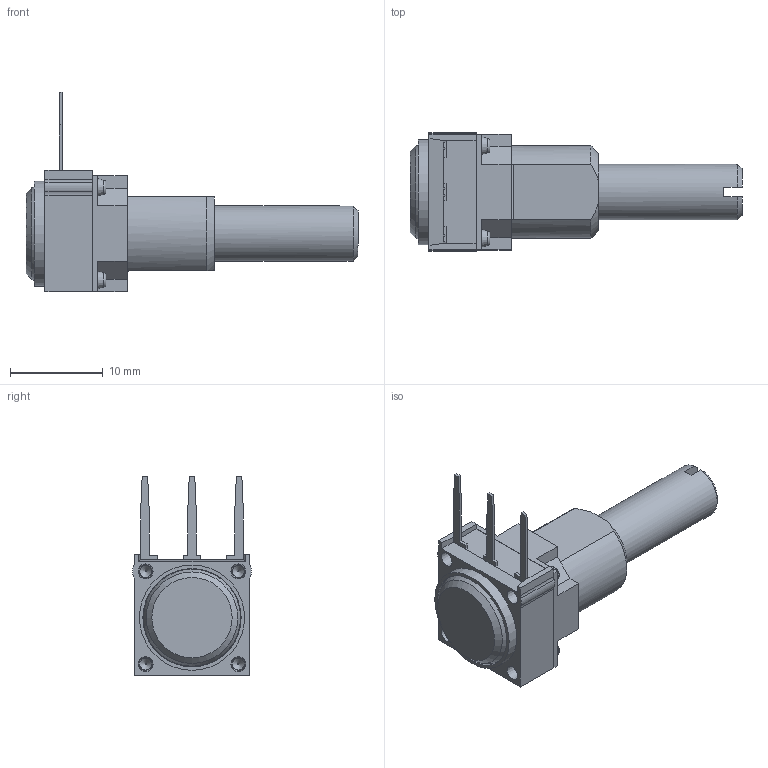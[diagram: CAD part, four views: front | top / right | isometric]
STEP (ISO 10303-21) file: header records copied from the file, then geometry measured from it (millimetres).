
FILE_DESCRIPTION(/* description */ ('Unknown'),/* implementation_level */ '2;1');
FILE_NAME(/* name */ 'P11S1V0FLSX00103KA',/* time_stamp */ '2017-12-14T14:44:09+01:00',/* author */ ('Unknown'),/* organization */ ('Unknown'),/* preprocessor_version */ 'ST-DEVELOPER v16.7',/* originating_system */ 'DEX',/* authorisation */ $);
FILE_SCHEMA (('AUTOMOTIVE_DESIGN {1 0 10303 214 3 1 1}'));
Length unit declared in the file: millimetre
Products named in the file (25): P11S1V0FLSX00103KA; 3653440; 3653020; 3653150; 3650550; M1-X00-103; 3650610; 3650913; M1-3PI0936; M1-365210; M1-3650100; M1-AG-9695P; M1-313P; 3650603; 3650640; 3650970; grille_p11_ci; collecteur+sortie2_Ci; sortie1_Ci; sortie3_Ci; 3650540; 0150008-P11; 0150001-P11
Assembly tree (24 placements, depth 5):
  P11S1V0FLSX00103KA
    3653440
    3653020
    3653150
    3650550
    M1-X00-103
      3650610
      3650913
      M1-3PI0936
        M1-365210
          M1-3650100
          M1-AG-9695P
        M1-313P
          M1-313P
        M1-3PI0936
      3650603
      3650640
      3650970
      grille_p11_ci
        collecteur+sortie2_Ci
        sortie1_Ci
        sortie3_Ci
    3650540
    0150008-P11
    0150001-P11
Bounding box: 35.83 x 12.79 x 21.5 mm (x, y, z)
Volume: 2050.8 mm3; surface area: 3672.9 mm2
Topology: 17 solids, 17 shells, 562 faces, 1461 edges, 961 vertices
Faces by surface type: plane 344, cylinder 138, cone 56, bspline 14, torus 10
Full cylindrical faces by diameter (mm): 0.759 x1, 1.2 x1, 1.3 x4, 1.5 x8, 1.55 x4, 3.4 x1, 3.97 x1, 4 x2, 4.1 x1, 4.6 x1, 5.25 x1, 5.6 x1, 6 x2, 6.4 x1, 7.42 x1, 7.44 x1, 8.4 x1, 9.65 x1, 10.6 x1, 11.35 x1
Entity records: 17955 total; most frequent: CARTESIAN_POINT 3429, DIRECTION 2829, ORIENTED_EDGE 2698, EDGE_CURVE 1349, AXIS2_PLACEMENT_3D 1008, VERTEX_POINT 926, LINE 813, VECTOR 813
